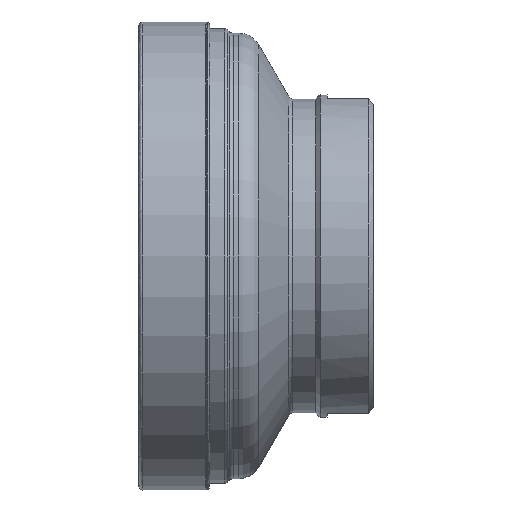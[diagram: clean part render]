
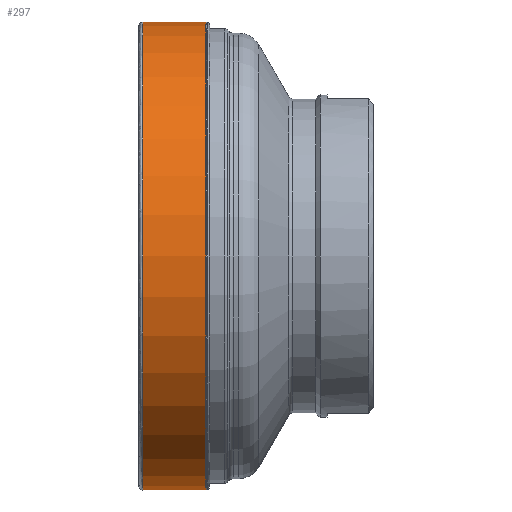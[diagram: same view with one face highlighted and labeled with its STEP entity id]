
A CAD part, front view. The second image highlights one B-rep face of the part: STEP entity #297.
In plain terms, the highlighted face is a revolution surface.
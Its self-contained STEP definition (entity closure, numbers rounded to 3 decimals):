
#37=SURFACE_OF_REVOLUTION('',#228,#58);
#58=AXIS1_PLACEMENT('',#1873,#1321);
#228=B_SPLINE_CURVE_WITH_KNOTS('',5,(#1867,#1868,#1869,#1870,#1871,#1872),
 .UNSPECIFIED.,.F.,.F.,(6,6),(0.,1.),.UNSPECIFIED.);
#297=ADVANCED_FACE('',(#386,#387),#37,.F.);
#386=FACE_BOUND('',#502,.T.);
#387=FACE_BOUND('',#503,.T.);
#502=EDGE_LOOP('',(#720));
#503=EDGE_LOOP('',(#721));
#720=ORIENTED_EDGE('',*,*,#936,.T.);
#721=ORIENTED_EDGE('',*,*,#934,.F.);
#825=VERTEX_POINT('',#1805);
#827=VERTEX_POINT('',#1866);
#934=EDGE_CURVE('',#825,#825,#995,.T.);
#936=EDGE_CURVE('',#827,#827,#996,.T.);
#995=CIRCLE('',#1099,50.725);
#996=CIRCLE('',#1100,50.705);
#1099=AXIS2_PLACEMENT_3D('',#1804,#1316,#1317);
#1100=AXIS2_PLACEMENT_3D('',#1865,#1319,#1320);
#1316=DIRECTION('',(-1.,0.,0.));
#1317=DIRECTION('',(0.,0.,1.));
#1319=DIRECTION('',(-1.,0.,0.));
#1320=DIRECTION('',(0.,0.,1.));
#1321=DIRECTION('',(-1.,0.,0.));
#1804=CARTESIAN_POINT('',(0.804,0.,0.));
#1805=CARTESIAN_POINT('',(0.804,0.,50.725));
#1865=CARTESIAN_POINT('',(14.56,0.,0.));
#1866=CARTESIAN_POINT('',(14.56,0.,50.705));
#1867=CARTESIAN_POINT('',(0.804,-50.725,0.));
#1868=CARTESIAN_POINT('',(3.555,-50.721,0.));
#1869=CARTESIAN_POINT('',(6.306,-50.717,0.));
#1870=CARTESIAN_POINT('',(9.058,-50.713,0.));
#1871=CARTESIAN_POINT('',(11.809,-50.709,0.));
#1872=CARTESIAN_POINT('',(14.56,-50.705,0.));
#1873=CARTESIAN_POINT('',(0.,0.,0.));
